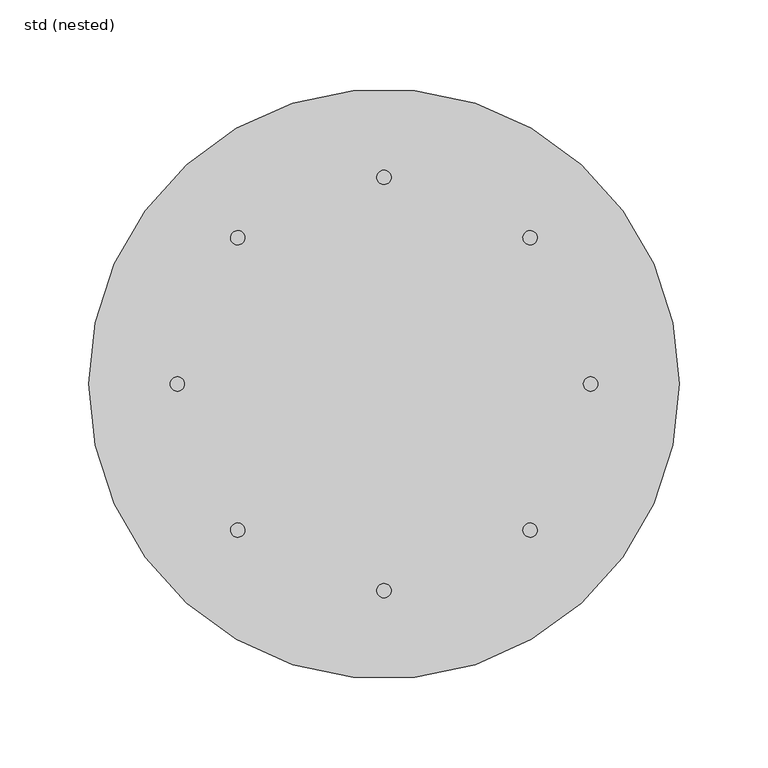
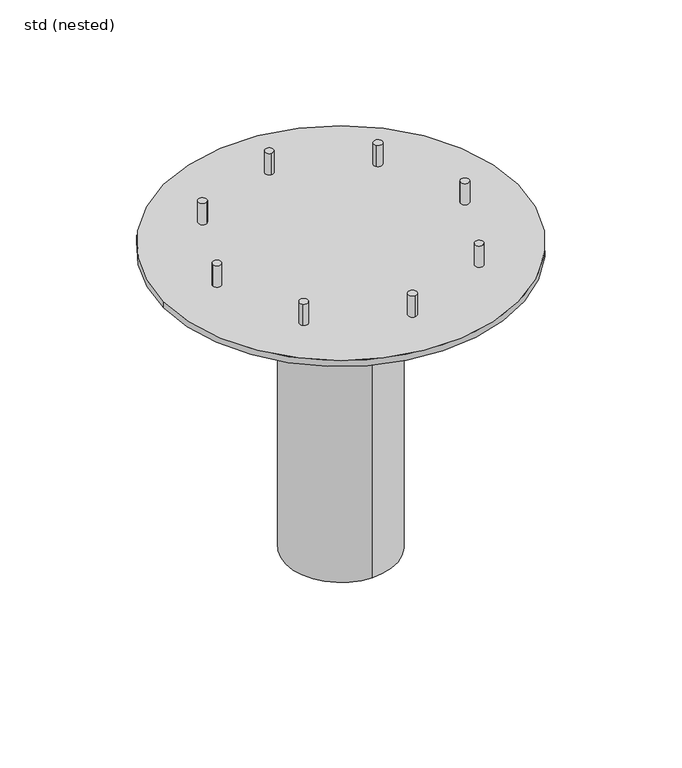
"""IFC4 building model written with IfcOpenShell, lengths in millimetres: sanitary terminal geometry, ZZZ_do not use_PF_ST_bottom part for 2-piece_ACO : std (nested)."""

from ifc_helpers import new_model, si_unit, point, frame, frame_2d, origin, origin_with_axes, place, context, project, spatial, circle_curve, trimmed, segment, composite_curve, outline, extrude, source, transform, mapped, element, save
from ifc_brep_helpers import plane_surface, cylinder_surface, advanced_brep


def std_nested_563bcbb4(model_context):
    return source(origin(), model_context, "Body", "SolidModel", [
        extrude(outline(composite_curve([segment(trimmed(circle_curve(frame_2d((-82.2011633, 82.2011633)), 4.0), [point((-85.0295904, 85.0295904))], [point((-79.3727362, 79.3727362))], False, "CARTESIAN"), True, "CONTINUOUS"), segment(trimmed(circle_curve(frame_2d((-82.2011633, 82.2011633)), 4.0), [point((-79.3727362, 79.3727362))], [point((-85.0295904, 85.0295904))], False, "CARTESIAN"), True, "CONTINUOUS")], self_intersect=False)), origin_with_axes(), (0.0, 0.0, 1.0), 21.0),
        extrude(outline(composite_curve([segment(trimmed(circle_curve(frame_2d((-116.25, 0.0)), 4.0), [point((-120.25, 0.0))], [point((-112.25, 0.0))], False, "CARTESIAN"), True, "CONTINUOUS"), segment(trimmed(circle_curve(frame_2d((-116.25, 0.0)), 4.0), [point((-112.25, 0.0))], [point((-120.25, 0.0))], False, "CARTESIAN"), True, "CONTINUOUS")], self_intersect=False)), origin_with_axes(), (0.0, 0.0, 1.0), 21.0),
        extrude(outline(composite_curve([segment(trimmed(circle_curve(frame_2d((-82.2011633, -82.2011633)), 4.0), [point((-85.0295904, -85.0295904))], [point((-79.3727362, -79.3727362))], False, "CARTESIAN"), True, "CONTINUOUS"), segment(trimmed(circle_curve(frame_2d((-82.2011633, -82.2011633)), 4.0), [point((-79.3727362, -79.3727362))], [point((-85.0295904, -85.0295904))], False, "CARTESIAN"), True, "CONTINUOUS")], self_intersect=False)), origin_with_axes(), (0.0, 0.0, 1.0), 21.0),
        extrude(outline(composite_curve([segment(trimmed(circle_curve(frame_2d((0.0, -116.25)), 4.0), [point((0.0, -120.25))], [point((0.0, -112.25))], False, "CARTESIAN"), True, "CONTINUOUS"), segment(trimmed(circle_curve(frame_2d((0.0, -116.25)), 4.0), [point((0.0, -112.25))], [point((0.0, -120.25))], False, "CARTESIAN"), True, "CONTINUOUS")], self_intersect=False)), origin_with_axes(), (0.0, 0.0, 1.0), 21.0),
        extrude(outline(composite_curve([segment(trimmed(circle_curve(frame_2d((82.2011633, -82.2011633)), 4.0), [point((85.0295904, -85.0295904))], [point((79.3727362, -79.3727362))], False, "CARTESIAN"), True, "CONTINUOUS"), segment(trimmed(circle_curve(frame_2d((82.2011633, -82.2011633)), 4.0), [point((79.3727362, -79.3727362))], [point((85.0295904, -85.0295904))], False, "CARTESIAN"), True, "CONTINUOUS")], self_intersect=False)), origin_with_axes(), (0.0, 0.0, 1.0), 21.0),
        extrude(outline(composite_curve([segment(trimmed(circle_curve(frame_2d((116.25, 0.0)), 4.0), [point((120.25, 0.0))], [point((112.25, 0.0))], False, "CARTESIAN"), True, "CONTINUOUS"), segment(trimmed(circle_curve(frame_2d((116.25, 0.0)), 4.0), [point((112.25, 0.0))], [point((120.25, 0.0))], False, "CARTESIAN"), True, "CONTINUOUS")], self_intersect=False)), origin_with_axes(), (0.0, 0.0, 1.0), 21.0),
        extrude(outline(composite_curve([segment(trimmed(circle_curve(frame_2d((82.2011633, 82.2011633)), 4.0), [point((85.0295904, 85.0295904))], [point((79.3727362, 79.3727362))], False, "CARTESIAN"), True, "CONTINUOUS"), segment(trimmed(circle_curve(frame_2d((82.2011633, 82.2011633)), 4.0), [point((79.3727362, 79.3727362))], [point((85.0295904, 85.0295904))], False, "CARTESIAN"), True, "CONTINUOUS")], self_intersect=False)), origin_with_axes(), (0.0, 0.0, 1.0), 21.0),
        extrude(outline(composite_curve([segment(trimmed(circle_curve(frame_2d((0.0, 116.25)), 4.0), [point((0.0, 120.25))], [point((0.0, 112.25))], False, "CARTESIAN"), True, "CONTINUOUS"), segment(trimmed(circle_curve(frame_2d((0.0, 116.25)), 4.0), [point((0.0, 112.25))], [point((0.0, 120.25))], False, "CARTESIAN"), True, "CONTINUOUS")], self_intersect=False)), origin_with_axes(), (0.0, 0.0, 1.0), 21.0),
        advanced_brep(
        [(0.0, -51.5, -300.0), (0.0, 51.5, -300.0), (0.0, 51.5, -6.0), (0.0, -51.5, -6.0), (-166.0, 0.0, -6.0), (166.0, 0.0, -6.0), (-166.0, 0.0, 0.0), (166.0, 0.0, 0.0)],
        [
            (0, 1, circle_curve(frame((0.0, 0.0, -300.0), z_axis=(0.0, 0.0, 1.0), x_axis=(0.0, 1.0, 0.0)), 51.5)),
            (1, 2),
            (2, 3, circle_curve(frame((0.0, 0.0, -6.0), z_axis=(0.0, 0.0, -1.0), x_axis=(0.0, 1.0, 0.0)), 51.5)),
            (3, 0),
            (1, 0, circle_curve(frame((0.0, 0.0, -300.0), z_axis=(0.0, 0.0, 1.0), x_axis=(0.0, 1.0, 0.0)), 51.5)),
            (3, 2, circle_curve(frame((0.0, 0.0, -6.0), z_axis=(0.0, 0.0, -1.0), x_axis=(0.0, 1.0, 0.0)), 51.5)),
            (4, 5, circle_curve(frame((0.0, 0.0, -6.0), z_axis=(0.0, 0.0, -1.0), x_axis=(1.0, 0.0, 0.0)), 166.0)),
            (5, 4, circle_curve(frame((0.0, 0.0, -6.0), z_axis=(0.0, 0.0, -1.0), x_axis=(1.0, 0.0, 0.0)), 166.0)),
            (6, 7, circle_curve(origin_with_axes(), 166.0)),
            (7, 6, circle_curve(origin_with_axes(), 166.0)),
            (5, 7),
            (6, 4),
        ],
        [
            cylinder_surface(frame((0.0, 0.0, -300.0), z_axis=(0.0, 0.0, 1.0), x_axis=(0.0, 1.0, 0.0)), 51.5),
            plane_surface(frame((166.0, 0.0, -6.0), z_axis=(0.0, 0.0, -1.0), x_axis=(0.0, -1.0, 0.0))),
            plane_surface(frame((166.0, 0.0, 0.0), z_axis=(0.0, 0.0, 1.0), x_axis=(0.0, 1.0, 0.0))),
            cylinder_surface(frame((0.0, 0.0, -6.0), z_axis=(0.0, 0.0, 1.0), x_axis=(1.0, 0.0, 0.0)), 166.0),
            plane_surface(frame((0.0, 51.5, -300.0), z_axis=(0.0, 0.0, -1.0), x_axis=(1.0, 0.0, 0.0))),
        ],
        [
            (0, [[1, 2, 3, 4]]),
            (0, [[5, -4, 6, -2]]),
            (1, [[7, 8], [-3, -6]]),
            (2, [[9, 10]]),
            (3, [[-8, 11, -9, 12]]),
            (3, [[-7, -12, -10, -11]]),
            (4, [[-5, -1]]),
        ],
    ),
    ])


if __name__ == "__main__":
    model = new_model("IFC4")
    model_context = context("Model", 3, world=origin())
    ifc_project = project(units=[si_unit("LENGTHUNIT", "METRE", prefix="MILLI")], contexts=[model_context])
    site = spatial("IfcSite", under=ifc_project)
    building = spatial("IfcBuilding", under=site)
    placement = place(None, origin())
    std_nested_shape = std_nested_563bcbb4(model_context)
    element("IfcSanitaryTerminal", 1, ObjectType="ZZZ_do not use_PF_ST_bottom part for 2-piece_ACO : std (nested)", at=placement, inside=building, context=model_context, shape_type="MappedRepresentation", body=[
        mapped(std_nested_shape, transform((0.0, 0.0, 0.0), x_axis=(1.0, 0.0, 0.0), y_axis=(0.0, 1.0, 0.0), z_axis=(0.0, 0.0, 1.0))),
    ])
    save(model, "model.ifc")
